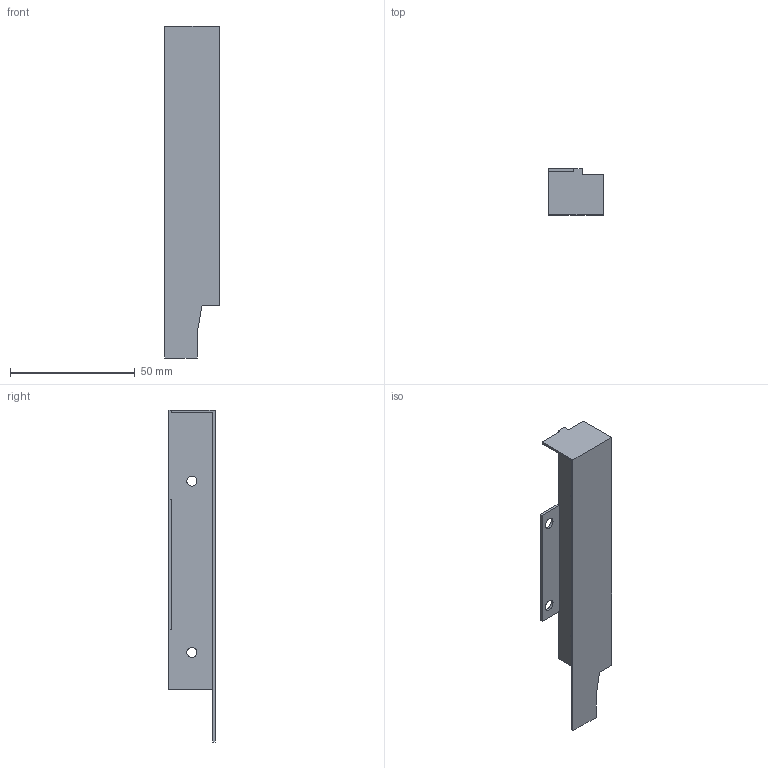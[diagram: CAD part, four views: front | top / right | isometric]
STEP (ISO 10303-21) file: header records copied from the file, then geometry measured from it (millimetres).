
FILE_DESCRIPTION (( 'STEP AP214' ), '1' );
FILE_NAME ('DWD-XP_Holzrueckwandadapter rechts H150 geschlossen.step', '2010-09-27T15:14:22', ( 'grass' ), ( '' ), 'SwSTEP 2.0', 'SolidWorks 2010', '' );
FILE_SCHEMA (( 'AUTOMOTIVE_DESIGN' ));
Length unit declared in the file: millimetre
Products named in the file (1): DWD-XP_Holzrueckwandadapter rechts H150 geschlossen
Bounding box: 22 x 18.5 x 133 mm (x, y, z)
Volume: 24016.4 mm3; surface area: 11710.2 mm2
Topology: 1 solids, 1 shells, 27 faces, 75 edges, 50 vertices
Faces by surface type: plane 19, cylinder 8
Entity records: 915 total; most frequent: CARTESIAN_POINT 153, ORIENTED_EDGE 150, DIRECTION 147, EDGE_CURVE 75, VECTOR 59, LINE 59, VERTEX_POINT 50, AXIS2_PLACEMENT_3D 44
